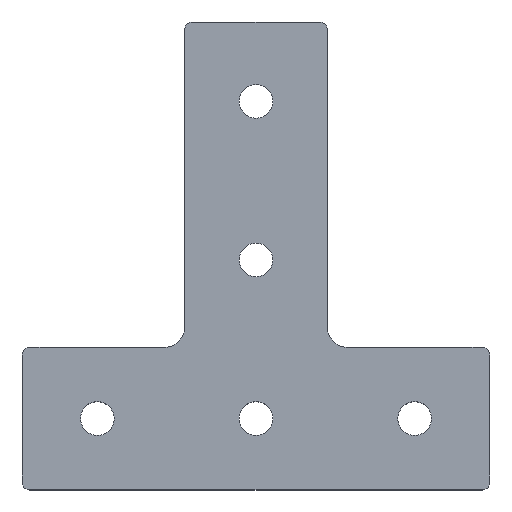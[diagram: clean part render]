
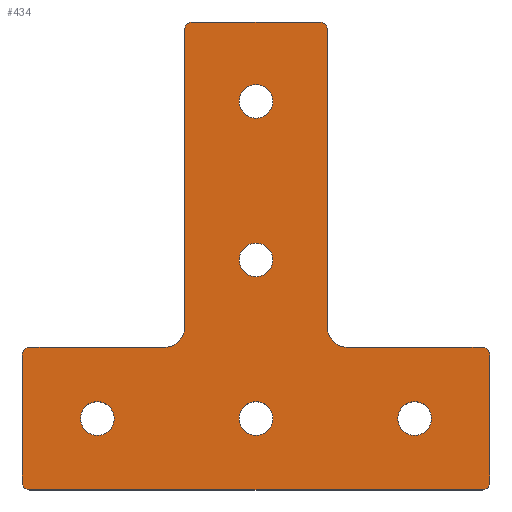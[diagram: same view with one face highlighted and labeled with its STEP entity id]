
A CAD part, top view. The second image highlights one B-rep face of the part: STEP entity #434.
In plain terms, the highlighted planar face has unit normal (0, 0, 1).
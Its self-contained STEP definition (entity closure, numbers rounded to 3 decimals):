
#21=PLANE('',#491);
#54=LINE('',#735,#86);
#55=LINE('',#736,#87);
#56=LINE('',#737,#88);
#57=LINE('',#738,#89);
#58=LINE('',#739,#90);
#59=LINE('',#740,#91);
#60=LINE('',#741,#92);
#61=LINE('',#742,#93);
#86=VECTOR('',#598,1000.);
#87=VECTOR('',#599,1000.);
#88=VECTOR('',#600,1000.);
#89=VECTOR('',#601,1000.);
#90=VECTOR('',#602,1000.);
#91=VECTOR('',#603,1000.);
#92=VECTOR('',#604,1000.);
#93=VECTOR('',#605,1000.);
#147=ORIENTED_EDGE('',*,*,#255,.T.);
#148=ORIENTED_EDGE('',*,*,#230,.T.);
#149=ORIENTED_EDGE('',*,*,#256,.T.);
#150=ORIENTED_EDGE('',*,*,#234,.T.);
#151=ORIENTED_EDGE('',*,*,#257,.T.);
#152=ORIENTED_EDGE('',*,*,#214,.T.);
#153=ORIENTED_EDGE('',*,*,#258,.T.);
#154=ORIENTED_EDGE('',*,*,#210,.T.);
#155=ORIENTED_EDGE('',*,*,#259,.T.);
#156=ORIENTED_EDGE('',*,*,#238,.T.);
#157=ORIENTED_EDGE('',*,*,#260,.T.);
#158=ORIENTED_EDGE('',*,*,#218,.T.);
#159=ORIENTED_EDGE('',*,*,#261,.T.);
#160=ORIENTED_EDGE('',*,*,#222,.T.);
#161=ORIENTED_EDGE('',*,*,#262,.T.);
#162=ORIENTED_EDGE('',*,*,#226,.T.);
#163=ORIENTED_EDGE('',*,*,#263,.F.);
#164=ORIENTED_EDGE('',*,*,#264,.F.);
#165=ORIENTED_EDGE('',*,*,#265,.F.);
#166=ORIENTED_EDGE('',*,*,#266,.F.);
#167=ORIENTED_EDGE('',*,*,#267,.F.);
#210=EDGE_CURVE('',#268,#269,#310,.T.);
#214=EDGE_CURVE('',#272,#273,#312,.T.);
#218=EDGE_CURVE('',#276,#277,#314,.T.);
#222=EDGE_CURVE('',#280,#281,#316,.T.);
#226=EDGE_CURVE('',#284,#285,#318,.T.);
#230=EDGE_CURVE('',#288,#289,#320,.T.);
#234=EDGE_CURVE('',#292,#293,#322,.T.);
#238=EDGE_CURVE('',#296,#297,#324,.T.);
#255=EDGE_CURVE('',#285,#288,#54,.T.);
#256=EDGE_CURVE('',#289,#292,#55,.T.);
#257=EDGE_CURVE('',#293,#272,#56,.T.);
#258=EDGE_CURVE('',#273,#268,#57,.T.);
#259=EDGE_CURVE('',#269,#296,#58,.T.);
#260=EDGE_CURVE('',#297,#276,#59,.T.);
#261=EDGE_CURVE('',#277,#280,#60,.T.);
#262=EDGE_CURVE('',#281,#284,#61,.T.);
#263=EDGE_CURVE('',#305,#305,#331,.T.);
#264=EDGE_CURVE('',#306,#306,#332,.T.);
#265=EDGE_CURVE('',#307,#307,#333,.T.);
#266=EDGE_CURVE('',#308,#308,#334,.T.);
#267=EDGE_CURVE('',#309,#309,#335,.T.);
#268=VERTEX_POINT('',#645);
#269=VERTEX_POINT('',#646);
#272=VERTEX_POINT('',#654);
#273=VERTEX_POINT('',#655);
#276=VERTEX_POINT('',#663);
#277=VERTEX_POINT('',#664);
#280=VERTEX_POINT('',#672);
#281=VERTEX_POINT('',#673);
#284=VERTEX_POINT('',#681);
#285=VERTEX_POINT('',#682);
#288=VERTEX_POINT('',#690);
#289=VERTEX_POINT('',#691);
#292=VERTEX_POINT('',#699);
#293=VERTEX_POINT('',#700);
#296=VERTEX_POINT('',#708);
#297=VERTEX_POINT('',#709);
#305=VERTEX_POINT('',#744);
#306=VERTEX_POINT('',#746);
#307=VERTEX_POINT('',#748);
#308=VERTEX_POINT('',#750);
#309=VERTEX_POINT('',#752);
#310=CIRCLE('',#462,2.);
#312=CIRCLE('',#465,2.);
#314=CIRCLE('',#468,2.);
#316=CIRCLE('',#471,2.);
#318=CIRCLE('',#474,2.);
#320=CIRCLE('',#477,2.);
#322=CIRCLE('',#480,5.);
#324=CIRCLE('',#483,5.);
#331=CIRCLE('',#492,4.25);
#332=CIRCLE('',#493,4.25);
#333=CIRCLE('',#494,4.25);
#334=CIRCLE('',#495,4.25);
#335=CIRCLE('',#496,4.25);
#350=EDGE_LOOP('',(#147,#148,#149,#150,#151,#152,#153,#154,#155,#156,#157,
#158,#159,#160,#161,#162));
#351=EDGE_LOOP('',(#163));
#352=EDGE_LOOP('',(#164));
#353=EDGE_LOOP('',(#165));
#354=EDGE_LOOP('',(#166));
#355=EDGE_LOOP('',(#167));
#388=FACE_BOUND('',#350,.T.);
#389=FACE_BOUND('',#351,.T.);
#390=FACE_BOUND('',#352,.T.);
#391=FACE_BOUND('',#353,.T.);
#392=FACE_BOUND('',#354,.T.);
#393=FACE_BOUND('',#355,.T.);
#434=ADVANCED_FACE('',(#388,#389,#390,#391,#392,#393),#21,.T.);
#462=AXIS2_PLACEMENT_3D('',#644,#514,#515);
#465=AXIS2_PLACEMENT_3D('',#653,#522,#523);
#468=AXIS2_PLACEMENT_3D('',#662,#530,#531);
#471=AXIS2_PLACEMENT_3D('',#671,#538,#539);
#474=AXIS2_PLACEMENT_3D('',#680,#546,#547);
#477=AXIS2_PLACEMENT_3D('',#689,#554,#555);
#480=AXIS2_PLACEMENT_3D('',#698,#562,#563);
#483=AXIS2_PLACEMENT_3D('',#707,#570,#571);
#491=AXIS2_PLACEMENT_3D('',#734,#596,#597);
#492=AXIS2_PLACEMENT_3D('',#743,#606,#607);
#493=AXIS2_PLACEMENT_3D('',#745,#608,#609);
#494=AXIS2_PLACEMENT_3D('',#747,#610,#611);
#495=AXIS2_PLACEMENT_3D('',#749,#612,#613);
#496=AXIS2_PLACEMENT_3D('',#751,#614,#615);
#514=DIRECTION('',(0.,0.,1.));
#515=DIRECTION('',(1.,0.,0.));
#522=DIRECTION('',(0.,0.,1.));
#523=DIRECTION('',(1.,0.,0.));
#530=DIRECTION('',(0.,0.,1.));
#531=DIRECTION('',(1.,0.,0.));
#538=DIRECTION('',(0.,0.,1.));
#539=DIRECTION('',(1.,0.,0.));
#546=DIRECTION('',(0.,0.,1.));
#547=DIRECTION('',(1.,0.,0.));
#554=DIRECTION('',(0.,0.,1.));
#555=DIRECTION('',(1.,0.,0.));
#562=DIRECTION('',(0.,0.,-1.));
#563=DIRECTION('',(1.,0.,0.));
#570=DIRECTION('',(0.,0.,-1.));
#571=DIRECTION('',(1.,0.,0.));
#596=DIRECTION('',(0.,0.,1.));
#597=DIRECTION('',(1.,0.,0.));
#598=DIRECTION('',(0.,1.,0.));
#599=DIRECTION('',(-1.,0.,0.));
#600=DIRECTION('',(0.,1.,0.));
#601=DIRECTION('',(-1.,0.,0.));
#602=DIRECTION('',(0.,-1.,0.));
#603=DIRECTION('',(-1.,0.,0.));
#604=DIRECTION('',(0.,-1.,0.));
#605=DIRECTION('',(1.,0.,0.));
#606=DIRECTION('',(0.,0.,1.));
#607=DIRECTION('',(1.,0.,0.));
#608=DIRECTION('',(0.,0.,1.));
#609=DIRECTION('',(1.,0.,0.));
#610=DIRECTION('',(0.,0.,1.));
#611=DIRECTION('',(1.,0.,0.));
#612=DIRECTION('',(0.,0.,1.));
#613=DIRECTION('',(1.,0.,0.));
#614=DIRECTION('',(0.,0.,1.));
#615=DIRECTION('',(1.,0.,0.));
#644=CARTESIAN_POINT('',(-29.483,66.535,3.));
#645=CARTESIAN_POINT('',(-29.483,68.535,3.));
#646=CARTESIAN_POINT('',(-31.483,66.535,3.));
#653=CARTESIAN_POINT('',(2.517,66.535,3.));
#654=CARTESIAN_POINT('',(4.517,66.535,3.));
#655=CARTESIAN_POINT('',(2.517,68.535,3.));
#662=CARTESIAN_POINT('',(-70.483,-15.465,3.));
#663=CARTESIAN_POINT('',(-70.483,-13.465,3.));
#664=CARTESIAN_POINT('',(-72.483,-15.465,3.));
#671=CARTESIAN_POINT('',(-70.483,-47.465,3.));
#672=CARTESIAN_POINT('',(-72.483,-47.465,3.));
#673=CARTESIAN_POINT('',(-70.483,-49.465,3.));
#680=CARTESIAN_POINT('',(43.517,-47.465,3.));
#681=CARTESIAN_POINT('',(43.517,-49.465,3.));
#682=CARTESIAN_POINT('',(45.517,-47.465,3.));
#689=CARTESIAN_POINT('',(43.517,-15.465,3.));
#690=CARTESIAN_POINT('',(45.517,-15.465,3.));
#691=CARTESIAN_POINT('',(43.517,-13.465,3.));
#698=CARTESIAN_POINT('',(9.517,-8.465,3.));
#699=CARTESIAN_POINT('',(9.517,-13.465,3.));
#700=CARTESIAN_POINT('',(4.517,-8.465,3.));
#707=CARTESIAN_POINT('',(-36.483,-8.465,3.));
#708=CARTESIAN_POINT('',(-31.483,-8.465,3.));
#709=CARTESIAN_POINT('',(-36.483,-13.465,3.));
#734=CARTESIAN_POINT('',(0.,0.,3.));
#735=CARTESIAN_POINT('',(45.517,-49.465,3.));
#736=CARTESIAN_POINT('',(45.517,-13.465,3.));
#737=CARTESIAN_POINT('',(4.517,-13.465,3.));
#738=CARTESIAN_POINT('',(4.517,68.535,3.));
#739=CARTESIAN_POINT('',(-31.483,68.535,3.));
#740=CARTESIAN_POINT('',(-31.483,-13.465,3.));
#741=CARTESIAN_POINT('',(-72.483,-13.465,3.));
#742=CARTESIAN_POINT('',(-72.483,-49.465,3.));
#743=CARTESIAN_POINT('',(-13.483,-31.465,3.));
#744=CARTESIAN_POINT('',(-9.233,-31.465,3.));
#745=CARTESIAN_POINT('',(-53.483,-31.465,3.));
#746=CARTESIAN_POINT('',(-49.233,-31.465,3.));
#747=CARTESIAN_POINT('',(26.517,-31.465,3.));
#748=CARTESIAN_POINT('',(30.767,-31.465,3.));
#749=CARTESIAN_POINT('',(-13.483,8.535,3.));
#750=CARTESIAN_POINT('',(-9.233,8.535,3.));
#751=CARTESIAN_POINT('',(-13.483,48.535,3.));
#752=CARTESIAN_POINT('',(-9.233,48.535,3.));
